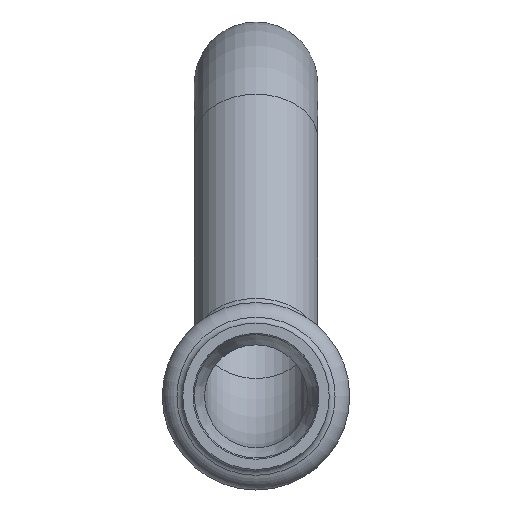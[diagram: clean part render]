
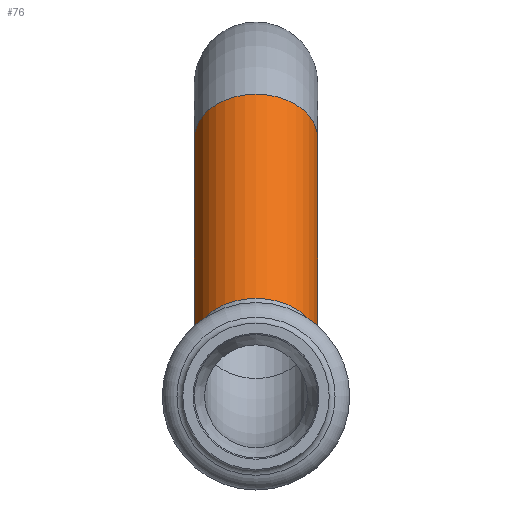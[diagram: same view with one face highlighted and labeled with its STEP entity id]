
A CAD part, front view. The second image highlights one B-rep face of the part: STEP entity #76.
In plain terms, the highlighted cylindrical face has radius 7.5 mm (diameter 15 mm), a full revolution.
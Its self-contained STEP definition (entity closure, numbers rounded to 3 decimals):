
#76=ADVANCED_FACE('',(#289,#291),#293,.T.);
#289=FACE_OUTER_BOUND('',#290,.T.);
#290=EDGE_LOOP('',(#397));
#291=FACE_OUTER_BOUND('',#292,.T.);
#292=EDGE_LOOP('',(#398));
#293=CYLINDRICAL_SURFACE('',#294,7.5);
#294=AXIS2_PLACEMENT_3D('',#295,#296,#297);
#295=CARTESIAN_POINT('',(0.,53.59,6.59));
#296=DIRECTION('',(0.,0.707,0.707));
#297=DIRECTION('',(-1.,0.,0.));
#397=ORIENTED_EDGE('',*,*,#437,.F.);
#398=ORIENTED_EDGE('',*,*,#435,.T.);
#435=EDGE_CURVE('',#494,#494,#495,.T.);
#437=EDGE_CURVE('',#498,#498,#499,.T.);
#494=VERTEX_POINT('',#638);
#495=CIRCLE('',#639,7.5);
#498=VERTEX_POINT('',#648);
#499=CIRCLE('',#649,7.5);
#638=CARTESIAN_POINT('',(-7.5,53.59,6.59));
#639=AXIS2_PLACEMENT_3D('',#640,#641,#642);
#640=CARTESIAN_POINT('',(0.,53.59,6.59));
#641=DIRECTION('',(0.,0.707,0.707));
#642=DIRECTION('',(-1.,0.,0.));
#648=CARTESIAN_POINT('',(-7.5,78.41,31.41));
#649=AXIS2_PLACEMENT_3D('',#650,#651,#652);
#650=CARTESIAN_POINT('',(0.,78.41,31.41));
#651=DIRECTION('',(0.,0.707,0.707));
#652=DIRECTION('',(-1.,0.,0.));
